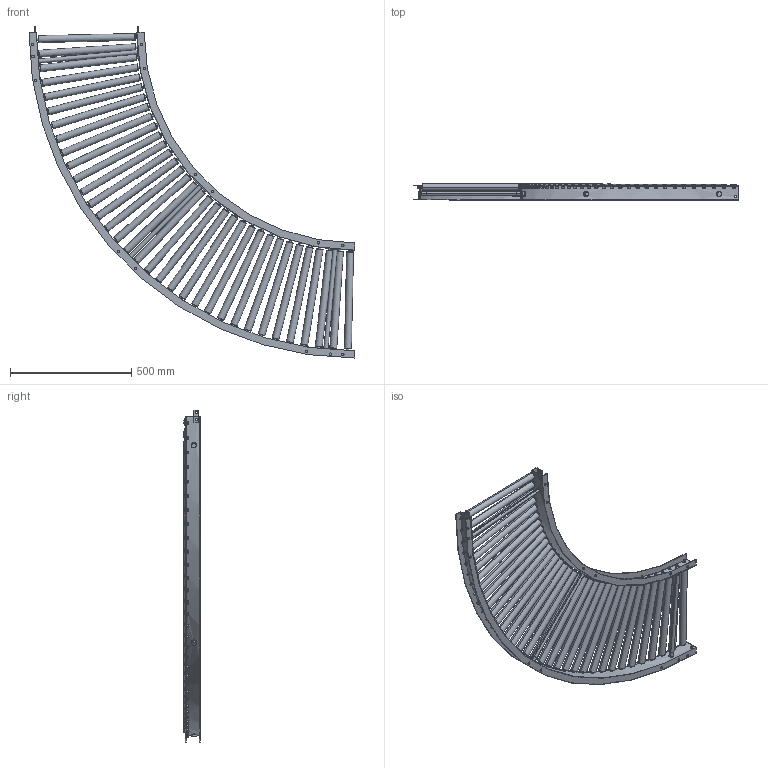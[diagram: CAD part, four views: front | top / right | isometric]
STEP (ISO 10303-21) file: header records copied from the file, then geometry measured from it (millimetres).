
FILE_DESCRIPTION (( 'STEP AP203' ), '1' );
FILE_NAME ('RB-2812_C.step', '2024-03-15T02:37:00', ( '' ), ( '' ), 'SwSTEP 2.0', 'SolidWorks 2023', '' );
FILE_SCHEMA (( 'CONFIG_CONTROL_DESIGN' ));
Length unit declared in the file: millimetre
Products named in the file (1): RB-2812_C
Bounding box: 1345 x 66.3 x 1370.08 mm (x, y, z)
Volume: 9527168.7 mm3; surface area: 3214931.1 mm2
Topology: 87 solids, 87 shells, 1298 faces, 2978 edges, 1928 vertices
Faces by surface type: cylinder 644, plane 482, torus 136, cone 36
Entity records: 46567 total; most frequent: CARTESIAN_POINT 16033, DIRECTION 6588, ORIENTED_EDGE 5956, EDGE_CURVE 2978, AXIS2_PLACEMENT_3D 2719, VERTEX_POINT 1928, EDGE_LOOP 1706, CIRCLE 1420
